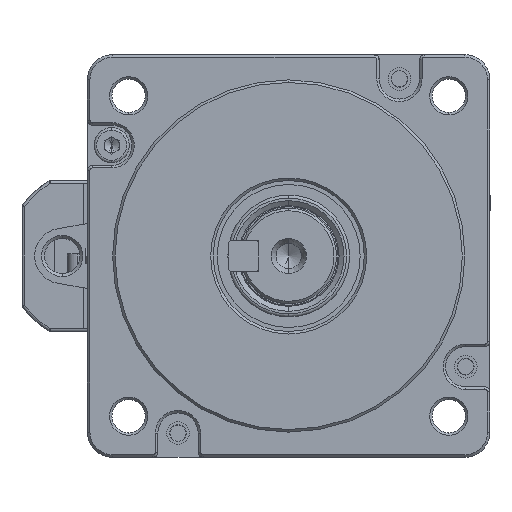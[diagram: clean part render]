
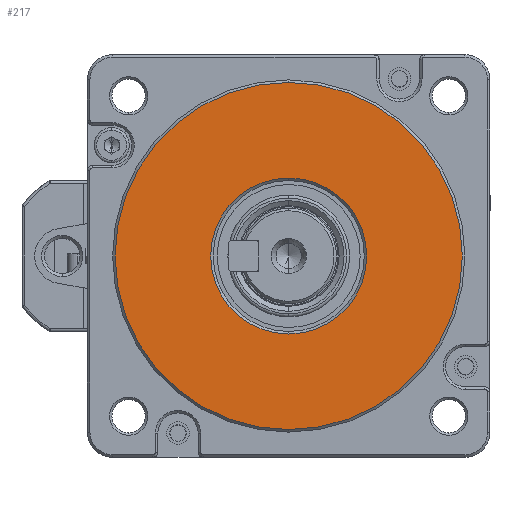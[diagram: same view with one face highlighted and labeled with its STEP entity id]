
A CAD part, left-side view. The second image highlights one B-rep face of the part: STEP entity #217.
In plain terms, the highlighted planar face has unit normal (-1, 0, 0).
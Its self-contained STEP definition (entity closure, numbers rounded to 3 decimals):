
#217 = ADVANCED_FACE ( 'NONE', ( #27550, #50516 ), #15230, .T. ) ;
#254 = DIRECTION ( 'NONE',  ( -1., 0., 0. ) ) ;
#558 = CARTESIAN_POINT ( 'NONE',  ( 4.324, 2.652, 37.227 ) ) ;
#3157 = EDGE_LOOP ( 'NONE', ( #55648, #37469 ) ) ;
#4427 = CARTESIAN_POINT ( 'NONE',  ( 4.324, 2.652, 2.727 ) ) ;
#5317 = CARTESIAN_POINT ( 'NONE',  ( 4.324, 2.652, -12.773 ) ) ;
#6024 = AXIS2_PLACEMENT_3D ( 'NONE', #4427, #39815, #34953 ) ;
#6589 = CIRCLE ( 'NONE', #6024, 34.5 ) ;
#9412 = CARTESIAN_POINT ( 'NONE',  ( 4.324, 2.652, 2.727 ) ) ;
#11247 = AXIS2_PLACEMENT_3D ( 'NONE', #25431, #254, #57752 ) ;
#11747 = DIRECTION ( 'NONE',  ( 0., 0., 1. ) ) ;
#12390 = CARTESIAN_POINT ( 'NONE',  ( 4.324, 2.652, 2.727 ) ) ;
#14042 = DIRECTION ( 'NONE',  ( 1., 0., 0. ) ) ;
#14069 = CARTESIAN_POINT ( 'NONE',  ( 4.324, 2.652, -31.773 ) ) ;
#14222 = EDGE_CURVE ( 'NONE', #29783, #39432, #6589, .T. ) ;
#14347 = DIRECTION ( 'NONE',  ( -1., 0., 0. ) ) ;
#14984 = CARTESIAN_POINT ( 'NONE',  ( 4.324, 2.652, 2.727 ) ) ;
#15230 = PLANE ( 'NONE',  #11247 ) ;
#15388 = CIRCLE ( 'NONE', #62419, 34.5 ) ;
#19499 = CARTESIAN_POINT ( 'NONE',  ( 4.324, 2.652, 18.227 ) ) ;
#20426 = VERTEX_POINT ( 'NONE', #19499 ) ;
#21584 = ORIENTED_EDGE ( 'NONE', *, *, #34835, .T. ) ;
#21909 = DIRECTION ( 'NONE',  ( 1., 0., 0. ) ) ;
#25431 = CARTESIAN_POINT ( 'NONE',  ( 4.324, 2.652, 2.727 ) ) ;
#27550 = FACE_OUTER_BOUND ( 'NONE', #46026, .T. ) ;
#29783 = VERTEX_POINT ( 'NONE', #558 ) ;
#30606 = AXIS2_PLACEMENT_3D ( 'NONE', #12390, #21909, #11747 ) ;
#31164 = CIRCLE ( 'NONE', #33827, 15.5 ) ;
#33827 = AXIS2_PLACEMENT_3D ( 'NONE', #9412, #14042, #49440 ) ;
#34835 = EDGE_CURVE ( 'NONE', #39432, #29783, #15388, .T. ) ;
#34953 = DIRECTION ( 'NONE',  ( 0., 0., 1. ) ) ;
#36405 = CIRCLE ( 'NONE', #30606, 15.5 ) ;
#37469 = ORIENTED_EDGE ( 'NONE', *, *, #47910, .T. ) ;
#39146 = EDGE_CURVE ( 'NONE', #20426, #42750, #31164, .T. ) ;
#39432 = VERTEX_POINT ( 'NONE', #14069 ) ;
#39815 = DIRECTION ( 'NONE',  ( -1., 0., 0. ) ) ;
#40430 = DIRECTION ( 'NONE',  ( 0., 0., 1. ) ) ;
#42292 = ORIENTED_EDGE ( 'NONE', *, *, #14222, .T. ) ;
#42750 = VERTEX_POINT ( 'NONE', #5317 ) ;
#46026 = EDGE_LOOP ( 'NONE', ( #21584, #42292 ) ) ;
#47910 = EDGE_CURVE ( 'NONE', #42750, #20426, #36405, .T. ) ;
#49440 = DIRECTION ( 'NONE',  ( 0., 0., 1. ) ) ;
#50516 = FACE_BOUND ( 'NONE', #3157, .T. ) ;
#55648 = ORIENTED_EDGE ( 'NONE', *, *, #39146, .T. ) ;
#57752 = DIRECTION ( 'NONE',  ( 0., 0., 1. ) ) ;
#62419 = AXIS2_PLACEMENT_3D ( 'NONE', #14984, #14347, #40430 ) ;
